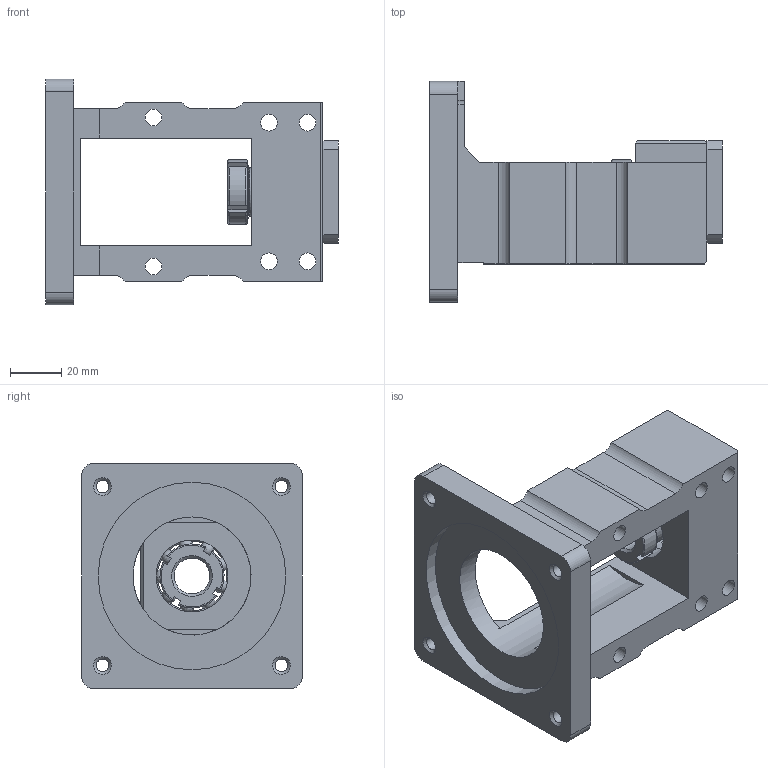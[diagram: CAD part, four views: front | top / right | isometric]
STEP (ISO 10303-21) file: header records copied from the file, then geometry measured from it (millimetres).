
FILE_DESCRIPTION(('STEP AP214'), '1');
FILE_NAME('HM15-086C5 - Êðîíøòåéí HM15', '', ('UNSPECIFIED'), ('UNSPECIFIED'), 'ASCON STEP Converter 1.6', 'ASCON Math Kernel', '');
FILE_SCHEMA(('AUTOMOTIVE_DESIGN { 1 0 10303 214 3 1 1}'));
Length unit declared in the file: millimetre
Products named in the file (1): HM15-086C5
Bounding box: 114 x 86 x 88 mm (x, y, z)
Volume: 195492.9 mm3; surface area: 67992.6 mm2
Topology: 31 solids, 31 shells, 315 faces, 798 edges, 517 vertices
Faces by surface type: plane 149, cylinder 80, cone 44, torus 24, sphere 18
Full cylindrical faces by diameter (mm): 3 x4, 3.242 x4, 4 x4, 4.5 x4, 4.917 x4, 6.5 x6, 7 x4, 7.5 x4, 10.5 x6, 13.917 x1, 15 x4, 19 x2, 19.972 x4, 21 x1, 27.027 x2, 28 x2, 32 x4, 46 x1, 73 x1
Entity records: 12151 total; most frequent: CARTESIAN_POINT 2371, DIRECTION 1513, ORIENTED_EDGE 1228, AXIS2_PLACEMENT_3D 627, EDGE_CURVE 614, EDGE_LOOP 477, VERTEX_POINT 473, COLOUR_RGB 346
